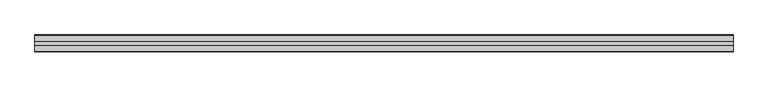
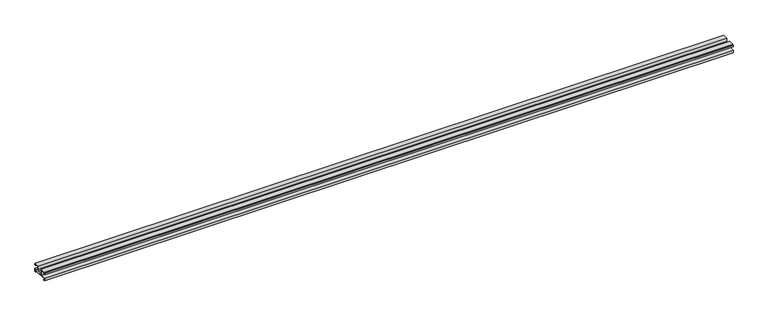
"""IFC4 building model written with IfcOpenShell, lengths in millimetres: proxy geometry, Weiku - Montante - Acoplamento vidro : Weiku - Montante - Acoplamento vidro."""

from ifc_helpers import new_model, si_unit, frame, origin, place, context, project, spatial, polyline, outline, extrude, source, transform, mapped, element, save


def generic_models_6d6c0bd4(model_context):
    return source(origin(), model_context, "Body", "SweptSolid", [
        extrude(outline(polyline([(-35.405, 5.1494), (-35.405, 6.8004), (-45.741, 6.8004), (-45.741, 2.6094), (-43.8784, 2.6094), (-43.8784, 0.0), (-47.9014508, 0.0), (-47.9014508, 8.79), (-34.946, 8.79), (-34.946, 23.3104), (-43.5397, 23.3104), (-43.5397, 19.204), (-47.9, 19.204), (-47.9, 22.8024), (-46.9264, 22.8024), (-46.9264, 20.3894), (-44.725, 20.3894), (-44.725, 23.9454), (-45.5264504, 23.9454), (-45.5264504, 25.3), (-30.4164, 25.3), (-30.4164, 16.283), (-32.4484, 16.283), (-32.4484, 8.8), (-15.4516, 8.8), (-15.4516, 16.283), (-17.4836, 16.283), (-17.4836, 25.3), (-2.3735496, 25.3), (-2.3735496, 23.9454), (-3.175, 23.9454), (-3.175, 20.3894), (-0.9736, 20.3894), (-0.9736, 22.8024), (0.0, 22.8024), (0.0, 19.204), (-4.3603, 19.204), (-4.3603, 23.3104), (-12.954, 23.3104), (-12.954, 8.79), (0.0014508, 8.79), (0.0014508, 0.0), (-4.0216, 0.0), (-4.0216, 2.6094), (-2.159, 2.6094), (-2.159, 6.8004), (-12.495, 6.8004), (-12.495, 5.1494), (-35.405, 5.1494)])), frame((-980.2, 0.0, 0.0), z_axis=(1.0, 0.0, 0.0), x_axis=(0.0, 1.0, 0.0)), (0.0, 0.0, 1.0), 1960.4),
    ])


if __name__ == "__main__":
    model = new_model("IFC4")
    model_context = context("Model", 3, world=origin())
    ifc_project = project(units=[si_unit("LENGTHUNIT", "METRE", prefix="MILLI")], contexts=[model_context])
    site = spatial("IfcSite", under=ifc_project)
    building = spatial("IfcBuilding", under=site)
    placement = place(None, origin())
    generic_models_shape = generic_models_6d6c0bd4(model_context)
    element("IfcBuildingElementProxy", 1, Name="Weiku - Montante - Acoplamento vidro : Weiku - Montante - Acoplamento vidro", ObjectType="Weiku - Montante - Acoplamento vidro : Weiku - Montante - Acoplamento vidro", at=placement, inside=building, context=model_context, shape_type="MappedRepresentation", body=[
        mapped(generic_models_shape, transform((0.0, 0.0, 0.0), x_axis=(1.0, 0.0, 0.0), y_axis=(0.0, 1.0, 0.0), z_axis=(0.0, 0.0, 1.0))),
    ])
    save(model, "model.ifc")
